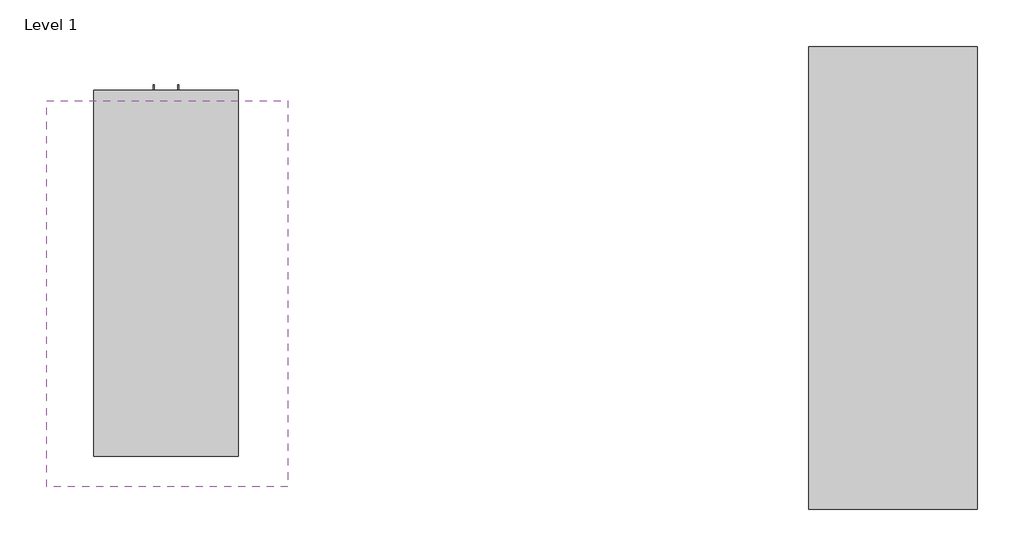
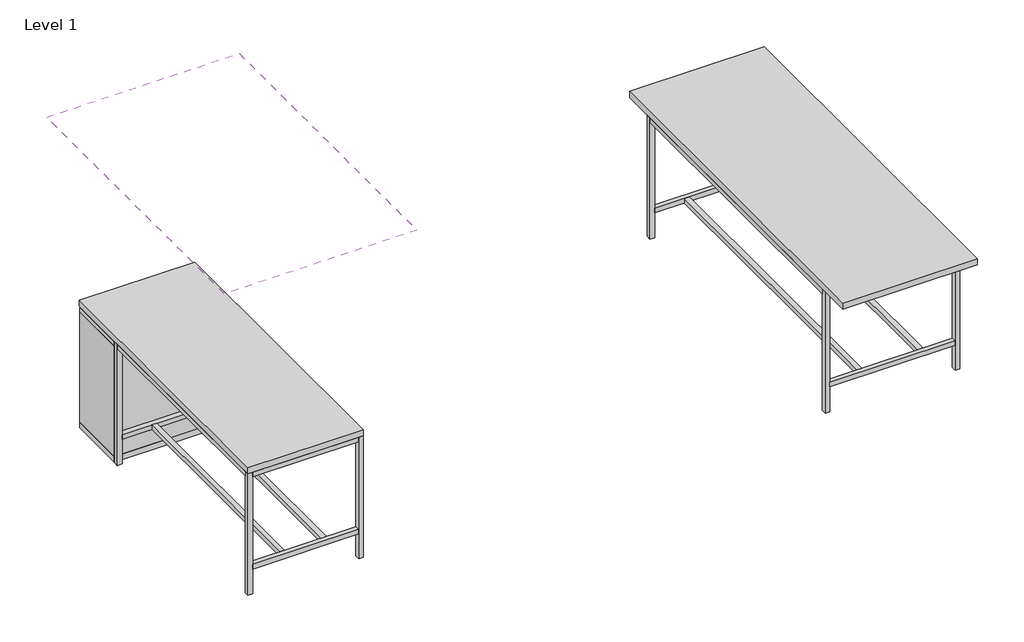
# One storey, incomplete: 3 furniture elements, 1 covering.
"""IFC4 building model written with IfcOpenShell, lengths in millimetres."""

from ifc_helpers import new_model, si_unit, frame, origin, place, context, project, spatial, polyline, outline, extrude, transform, mapped, element, save
from components import furniture_ab9e4107, furniture_88f81041, furniture_b3af4977

model = new_model("IFC4")

# Units and contexts
model_context = context("Model", 3, world=origin())
ifc_project = project(units=[si_unit("LENGTHUNIT", "METRE", prefix="MILLI")], contexts=[model_context])

# Site, building, storey
site = spatial("IfcSite", under=ifc_project)
building = spatial("IfcBuilding", under=site)
storey = spatial("IfcBuildingStorey", under=building, Name="Level 1", Elevation=0.0)

# Covering
placement = place(None, origin())
element("IfcCovering", 1, ObjectType="2' x 4' ACT System", at=placement, inside=storey, context=model_context, shape_type="SweptSolid", body=[
    extrude(outline(polyline([(-2359.8017987, 3315.1944267), (-2359.8017987, 876.7944267), (-3883.8017987, 876.7944267), (-3883.8017987, 3315.1944267), (-2359.8017987, 3315.1944267)])), frame((0.0, 0.0, 2743.2), z_axis=(0.0, 0.0, 1.0), x_axis=(1.0, 0.0, 0.0)), (0.0, 0.0, 1.0), 57.15),
])

# Furniture
furniture_shape = furniture_ab9e4107(model_context)
element("IfcFurniture", 2, ObjectType="Haworth_XSeries_StorageCabinet : 18d 36w 39h", at=placement, inside=storey, context=model_context, shape_type="MappedRepresentation", body=[
    mapped(furniture_shape, transform((-3129.2051772, 2905.0425011, 0.0), x_axis=(1.0, 0.0, 0.0), y_axis=(0.0, 1.0, 0.0), z_axis=(0.0, 0.0, 1.0))),
])
furniture_2_shape = furniture_88f81041(model_context)
element("IfcFurniture", 3, ObjectType="Haworth_Cultivate_Table - SP : 42h 115w 42d - Top Overhang - Both Sides 9 1/2w", at=placement, inside=storey, context=model_context, shape_type="MappedRepresentation", body=[
    mapped(furniture_2_shape, transform((1525.2895743, -3836.617798, 0.0), x_axis=(-1.192488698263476e-08, 1.0000000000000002, 0.0), y_axis=(-1.0000000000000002, -1.192488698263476e-08, 0.0), z_axis=(0.0, 0.0, 1.0))),
])
furniture_3_shape = furniture_b3af4977(model_context)
element("IfcFurniture", 4, ObjectType="Haworth_Cultivate_Table : 42h 91w 36d - Top Overhang - Right 19w", at=placement, inside=storey, context=model_context, shape_type="MappedRepresentation", body=[
    mapped(furniture_3_shape, transform((-3140.80782, -3743.4074935, 0.0), x_axis=(0.0, 1.0, 0.0), y_axis=(-1.0, 0.0, 0.0), z_axis=(0.0, 0.0, 1.0))),
])

save(model, "model.ifc")
